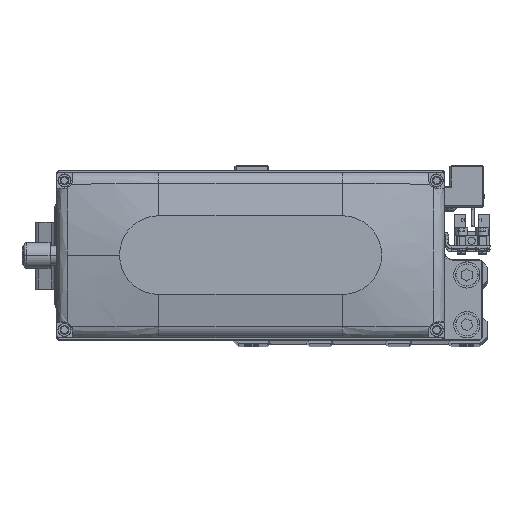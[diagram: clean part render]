
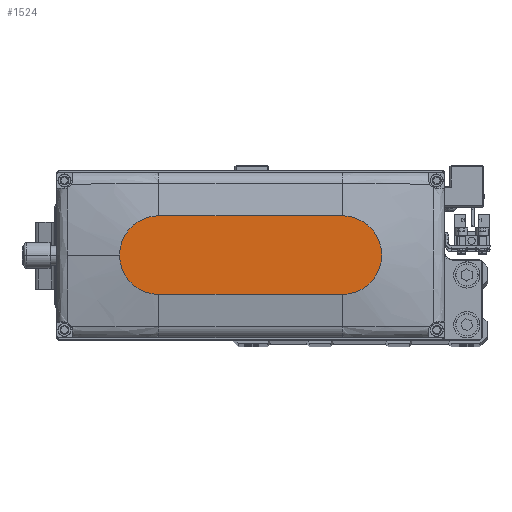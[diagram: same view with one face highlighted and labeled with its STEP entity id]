
A CAD part, top view. The second image highlights one B-rep face of the part: STEP entity #1524.
In plain terms, the highlighted planar face has unit normal (0, 0, 1).
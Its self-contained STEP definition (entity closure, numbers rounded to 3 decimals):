
#910 = VERTEX_POINT ( 'NONE', #37881 ) ;
#1524 = ADVANCED_FACE ( 'NONE', ( #11530 ), #24719, .T. ) ;
#1764 = CARTESIAN_POINT ( 'NONE',  ( -35., 15., 35. ) ) ;
#4810 = ORIENTED_EDGE ( 'NONE', *, *, #16151, .T. ) ;
#5430 = CARTESIAN_POINT ( 'NONE',  ( -35., 0., 35. ) ) ;
#5624 = VERTEX_POINT ( 'NONE', #41333 ) ;
#5677 = VERTEX_POINT ( 'NONE', #12125 ) ;
#6904 = EDGE_CURVE ( 'NONE', #5624, #5677, #37059, .T. ) ;
#6972 = CARTESIAN_POINT ( 'NONE',  ( 35., 0., 35. ) ) ;
#7471 = ORIENTED_EDGE ( 'NONE', *, *, #6904, .T. ) ;
#7878 = CIRCLE ( 'NONE', #13382, 15. ) ;
#8273 = DIRECTION ( 'NONE',  ( 0., 0., 1. ) ) ;
#8653 = EDGE_CURVE ( 'NONE', #15081, #25606, #41307, .T. ) ;
#8733 = DIRECTION ( 'NONE',  ( 1., 0., 0. ) ) ;
#10220 = ORIENTED_EDGE ( 'NONE', *, *, #8653, .T. ) ;
#11530 = FACE_OUTER_BOUND ( 'NONE', #29141, .T. ) ;
#12125 = CARTESIAN_POINT ( 'NONE',  ( 35., 15., 35. ) ) ;
#12290 = DIRECTION ( 'NONE',  ( -1., 0., 0. ) ) ;
#12837 = DIRECTION ( 'NONE',  ( 1., 0., 0. ) ) ;
#13382 = AXIS2_PLACEMENT_3D ( 'NONE', #6972, #20164, #33352 ) ;
#13817 = EDGE_CURVE ( 'NONE', #5677, #15081, #28742, .T. ) ;
#15081 = VERTEX_POINT ( 'NONE', #1764 ) ;
#16151 = EDGE_CURVE ( 'NONE', #910, #5624, #7878, .T. ) ;
#17543 = ORIENTED_EDGE ( 'NONE', *, *, #13817, .T. ) ;
#18400 = AXIS2_PLACEMENT_3D ( 'NONE', #25165, #38379, #8733 ) ;
#18616 = DIRECTION ( 'NONE',  ( 0., 0., 1. ) ) ;
#20020 = EDGE_CURVE ( 'NONE', #25606, #910, #29272, .T. ) ;
#20164 = DIRECTION ( 'NONE',  ( 0., 0., 1. ) ) ;
#20518 = ORIENTED_EDGE ( 'NONE', *, *, #20020, .T. ) ;
#21469 = DIRECTION ( 'NONE',  ( 1., 0., 0. ) ) ;
#22651 = AXIS2_PLACEMENT_3D ( 'NONE', #5430, #18616, #31798 ) ;
#24719 = PLANE ( 'NONE',  #40854 ) ;
#25165 = CARTESIAN_POINT ( 'NONE',  ( 35., 0., 35. ) ) ;
#25606 = VERTEX_POINT ( 'NONE', #34627 ) ;
#27903 = VECTOR ( 'NONE', #12290, 1000. ) ;
#28742 = LINE ( 'NONE', #41943, #27903 ) ;
#29141 = EDGE_LOOP ( 'NONE', ( #17543, #10220, #20518, #4810, #7471 ) ) ;
#29272 = LINE ( 'NONE', #42485, #33452 ) ;
#31798 = DIRECTION ( 'NONE',  ( 1., 0., 0. ) ) ;
#33352 = DIRECTION ( 'NONE',  ( 1., 0., 0. ) ) ;
#33452 = VECTOR ( 'NONE', #12837, 1000. ) ;
#34627 = CARTESIAN_POINT ( 'NONE',  ( -35., -15., 35. ) ) ;
#37059 = CIRCLE ( 'NONE', #18400, 15. ) ;
#37881 = CARTESIAN_POINT ( 'NONE',  ( 35., -15., 35. ) ) ;
#37918 = CARTESIAN_POINT ( 'NONE',  ( 0., 0., 35. ) ) ;
#38379 = DIRECTION ( 'NONE',  ( 0., 0., 1. ) ) ;
#40854 = AXIS2_PLACEMENT_3D ( 'NONE', #37918, #8273, #21469 ) ;
#41307 = CIRCLE ( 'NONE', #22651, 15. ) ;
#41333 = CARTESIAN_POINT ( 'NONE',  ( 50., 0., 35. ) ) ;
#41943 = CARTESIAN_POINT ( 'NONE',  ( -35., 15., 35. ) ) ;
#42485 = CARTESIAN_POINT ( 'NONE',  ( -35., -15., 35. ) ) ;
